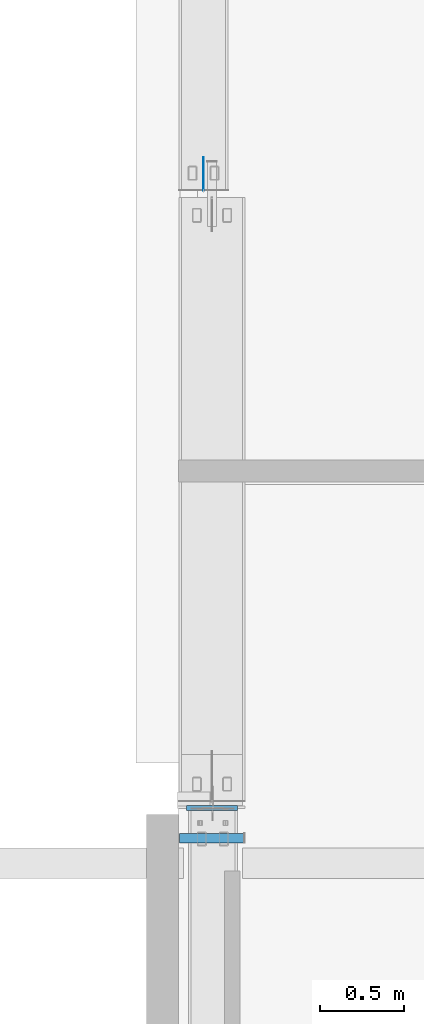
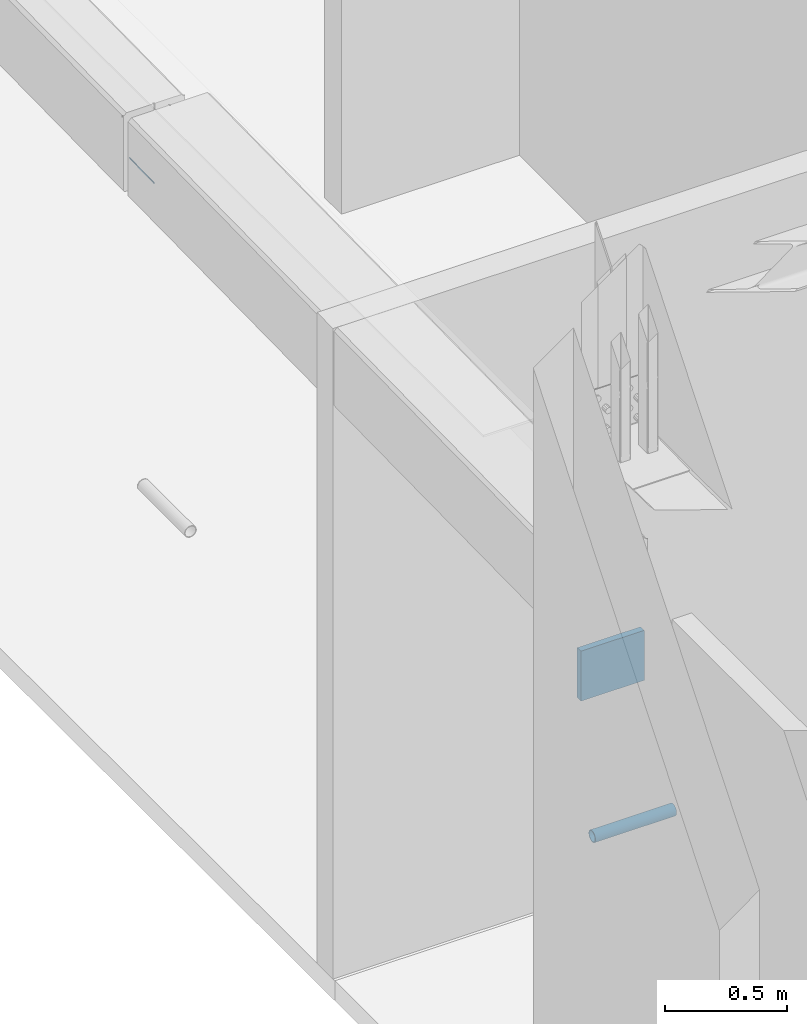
# One storey, part 40 of 186: 3 beams.
"""IFC4X3_ADD2 building model written with IfcOpenShell, lengths in millimetres."""

import ifcopenshell
import ifcopenshell.guid

model = None  # the IFC model being written
_history = None  # IfcOwnerHistory: only IFC2X3 demands one
_inside = {}  # id of a spatial element -> (the spatial element, [elements in it])
_under = {}  # id of a project, library or spatial element -> (it, [spatial elements below it])
_declared = {}  # id of a project -> (the project, [libraries it declares])
_typed = {}  # id of a type object -> (the type object, [elements of that type])
_made_of = {}  # id of a material, layer set ... -> (it, [elements and type objects made of it])


def new_model(schema):
    """Start an empty IFC model of exactly this schema.

    Asked for "IFC4X3", IfcOpenShell would pick the latest addendum, in which some entities
    have other attributes; the version numbers below select the first issue.
    IFC2X3 requires an IfcOwnerHistory on every rooted entity: one is made here for all.
    """
    global model, _history
    if schema == "IFC4X3":
        model = ifcopenshell.file(schema_version=(4, 3, 0, 0))
    else:
        model = ifcopenshell.file(schema=schema)
    _inside.clear()
    _under.clear()
    _declared.clear()
    _typed.clear()
    _made_of.clear()
    _history = None
    if model.schema == "IFC2X3":
        org = make("IfcOrganization", Name="unknown")
        user = make(
            "IfcPersonAndOrganization",
            ThePerson=make("IfcPerson", FamilyName="unknown"),
            TheOrganization=org,
        )
        app = make(
            "IfcApplication",
            ApplicationDeveloper=org,
            Version="unknown",
            ApplicationFullName="unknown",
            ApplicationIdentifier="unknown",
        )
        _history = make(
            "IfcOwnerHistory",
            OwningUser=user,
            OwningApplication=app,
            ChangeAction="ADDED",
            CreationDate=0,
        )
    return model


def make(cls, **values):
    """One entity of the class cls with the attributes given. An attribute that is None is left unset."""
    return model.create_entity(
        cls, **{name: value for name, value in values.items() if value is not None}
    )


def rooted(cls, **values):
    """An entity with a GlobalId (a new one), such as an element, a storey or a relation."""
    return make(cls, GlobalId=ifcopenshell.guid.new(), OwnerHistory=_history, **values)


def si_unit(unit_type, name, prefix=None):
    """IfcSIUnit, for example si_unit("LENGTHUNIT", "METRE", prefix="MILLI")."""
    return make("IfcSIUnit", UnitType=unit_type, Prefix=prefix, Name=name)


def assignment(units):
    """IfcUnitAssignment: the units of a project."""
    return None if units is None else make("IfcUnitAssignment", Units=units)


def point(xyz):
    """IfcCartesianPoint."""
    return None if xyz is None else make("IfcCartesianPoint", Coordinates=xyz)


def direction(xyz):
    """IfcDirection."""
    return None if xyz is None else make("IfcDirection", DirectionRatios=xyz)


def frame(location, z_axis=None, x_axis=None):
    """IfcAxis2Placement3D, a coordinate frame: its origin and axes. An axis left out is left unset."""
    return make(
        "IfcAxis2Placement3D",
        Location=point(location),
        Axis=direction(z_axis),
        RefDirection=direction(x_axis),
    )


def frame_2d(location, x_axis=None):
    """IfcAxis2Placement2D, a coordinate frame in the plane: its origin and x axis."""
    return make(
        "IfcAxis2Placement2D", Location=point(location), RefDirection=direction(x_axis)
    )


def origin_with_axes():
    """The frame at (0, 0, 0) with the z axis (0, 0, 1) and the x axis (1, 0, 0) written out."""
    return frame((0.0, 0.0, 0.0), z_axis=(0.0, 0.0, 1.0), x_axis=(1.0, 0.0, 0.0))


def place(relative_to, where):
    """IfcLocalPlacement: puts the frame where relative to a parent placement (None: the world)."""
    return make(
        "IfcLocalPlacement", PlacementRelTo=relative_to, RelativePlacement=where
    )


def context(
    kind, dimensions, precision=None, world=None, true_north=None, identifier=None
):
    """IfcGeometricRepresentationContext, for example the 3D "Model" context."""
    return make(
        "IfcGeometricRepresentationContext",
        ContextIdentifier=identifier,
        ContextType=kind,
        CoordinateSpaceDimension=dimensions,
        Precision=precision,
        WorldCoordinateSystem=world,
        TrueNorth=true_north,
    )


def subcontext(parent, identifier, kind, view, scale=None):
    """IfcGeometricRepresentationSubContext, for example "Body" below "Model"."""
    return make(
        "IfcGeometricRepresentationSubContext",
        ContextIdentifier=identifier,
        ContextType=kind,
        ParentContext=parent,
        TargetScale=scale,
        TargetView=view,
    )


def project(units=None, contexts=None):
    """IfcProject with its units and contexts."""
    return rooted(
        "IfcProject",
        Name="project",
        RepresentationContexts=contexts,
        UnitsInContext=assignment(units),
    )


def spatial(cls, under=None, at=None, **own):
    """A site, building, storey or space (cls), placed at a placement, below another one or the project."""
    s = rooted(cls, ObjectPlacement=at, **own)
    if under is not None:
        _under.setdefault(under.id(), (under, []))[1].append(s)
    return s


def profile(cls, at=None, kind="AREA", **sizes):
    """A parametric profile (cls). Its sizes go by their IFC names, for example OverallWidth=200.0."""
    return make(cls, ProfileType=kind, Position=at, **sizes)


def rectangle(**sizes):
    """IfcRectangleProfileDef."""
    return profile("IfcRectangleProfileDef", **sizes)


def hollow_circle(**sizes):
    """IfcCircleHollowProfileDef."""
    return profile("IfcCircleHollowProfileDef", **sizes)


def extrude(swept, where, along, depth):
    """IfcExtrudedAreaSolid: the profile swept, set in the frame where, extruded along a direction by depth."""
    return make(
        "IfcExtrudedAreaSolid",
        SweptArea=swept,
        Position=where,
        ExtrudedDirection=direction(along),
        Depth=depth,
    )


def shape(context_of_items, identifier, shape_type, items):
    """IfcShapeRepresentation: the items that make up one representation, for example the "Body"."""
    return make(
        "IfcShapeRepresentation",
        ContextOfItems=context_of_items,
        RepresentationIdentifier=identifier,
        RepresentationType=shape_type,
        Items=items,
    )


def material(Name=None, Category=None):
    """IfcMaterial."""
    return make("IfcMaterial", Name=Name, Category=Category)


def made_of(thing, what):
    """Note that an element or type object is made of a material, layer set ...; save() writes the relation."""
    if what is not None:
        _made_of.setdefault(what.id(), (what, []))[1].append(thing)
    return thing


def element(
    cls,
    number,
    at=None,
    inside=None,
    cuts=None,
    type_object=None,
    material=None,
    context=None,
    identifier="Body",
    shape_type=None,
    held_by="IfcProductDefinitionShape",
    body=None,
    shapes=None,
    **own,
):
    """One element of the class cls, such as IfcWall. Its Tag is "e" and its number.

    at: its placement. inside: the storey or other place that contains it. cuts: it is an
    opening in that element (IfcRelVoidsElement). A single representation is given by context,
    identifier, shape_type and body (its items); several are given by shapes. held_by: the class
    of the entity that holds the representations. save() writes the other relations.
    """
    e = rooted(cls, Tag="e%d" % number, ObjectPlacement=at, **own)
    if body is not None:
        shapes = [shape(context, identifier, shape_type, body)]
    if shapes is not None:
        e.Representation = make(held_by, Representations=shapes)
    if inside is not None:
        _inside.setdefault(inside.id(), (inside, []))[1].append(e)
    if cuts is not None:
        rooted(
            "IfcRelVoidsElement", RelatingBuildingElement=cuts, RelatedOpeningElement=e
        )
    if type_object is not None:
        _typed.setdefault(type_object.id(), (type_object, []))[1].append(e)
    return made_of(e, material)


def aggregate(whole, parts):
    """IfcRelAggregates: a whole, such as a stair, and the parts it consists of."""
    return rooted("IfcRelAggregates", RelatingObject=whole, RelatedObjects=parts)


def save(model, path):
    """Write the relations noted so far, then the file.

    IfcRelAggregates (storeys below a building ...), IfcRelContainedInSpatialStructure (elements
    in a storey), IfcRelDefinesByType, IfcRelAssociatesMaterial and IfcRelDeclares: one each for
    every whole, place, type object, material and project.
    """
    for whole, parts in _under.values():
        aggregate(whole, parts)
    for where, things in _inside.values():
        rooted(
            "IfcRelContainedInSpatialStructure",
            RelatedElements=things,
            RelatingStructure=where,
        )
    for kind, things in _typed.values():
        rooted("IfcRelDefinesByType", RelatedObjects=things, RelatingType=kind)
    for what, things in _made_of.values():
        rooted("IfcRelAssociatesMaterial", RelatedObjects=things, RelatingMaterial=what)
    for by, libraries in _declared.values():
        rooted("IfcRelDeclares", RelatingContext=by, RelatedDefinitions=libraries)
    model.write(path)


model = new_model("IFC4X3_ADD2")

# Units and contexts
model_context = context("Model", 3, precision=1e-05, world=origin_with_axes(), true_north=direction((0.0, 1.0)))
body_context = subcontext(model_context, "Body", "Model", "MODEL_VIEW")
ifc_project = project(units=[si_unit("LENGTHUNIT", "METRE", prefix="MILLI"), si_unit("AREAUNIT", "SQUARE_METRE"), si_unit("VOLUMEUNIT", "CUBIC_METRE"), si_unit("PLANEANGLEUNIT", "RADIAN"), si_unit("TIMEUNIT", "SECOND"), si_unit("MASSUNIT", "GRAM")], contexts=[model_context])

# Site, building, storey
site_placement = place(None, origin_with_axes())
site = spatial("IfcSite", under=ifc_project, at=site_placement, Name="Site", CompositionType="ELEMENT")
building_placement = place(site_placement, origin_with_axes())
building = spatial("IfcBuilding", under=site, at=building_placement, Name="IFC Building Story")
storey_placement = place(building_placement, frame((0.0, 0.0, 4370.0), z_axis=(0.0, 0.0, 1.0), x_axis=(1.0, 0.0, 0.0)))
storey = spatial("IfcBuildingStorey", under=building, at=storey_placement, Name="ETAGE 10 (1)", Elevation=4370.0)

# Beams
ifc_material_1 = material(Name="STEEL/Accessory_invisible 261")
beam_1_placement = place(storey_placement, frame((33350.6886988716, 21739.9272317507, 2883.763470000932), z_axis=(1.0, 0.0, 0.0), x_axis=(0.0, 0.01552555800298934, -0.9998794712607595)))
element("IfcBeam", 1, at=beam_1_placement, inside=storey, material=ifc_material_1, Name="BEK4", ObjectType="8*1", context=body_context, shape_type="SweptSolid", body=[
    extrude(rectangle(XDim=8.00000000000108, YDim=200.024108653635, at=frame_2d((0.0, 5.95523630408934e-12), x_axis=(1.0, 0.0))), origin_with_axes(), (0.0, 0.0, 1.0), 1.0),
])
ifc_material_2 = material(Name="STEEL/Accessory_PVC")
beam_2_placement = place(storey_placement, frame((33209.1879999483, 17805.0, 1990.0), z_axis=(1.0, 0.0, 0.0), x_axis=(0.0, 0.0, -1.0)))
element("IfcBeam", 2, at=beam_2_placement, inside=storey, material=ifc_material_2, Name="PS13", ObjectType="O56*3", context=body_context, shape_type="SweptSolid", body=[
    extrude(hollow_circle(Radius=28.0, WallThickness=3.0, at=frame_2d((0.0, 5.95523630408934e-12), x_axis=(1.0, 0.0))), origin_with_axes(), (0.0, 0.0, 1.0), 384.0),
])
ifc_material_3 = material(Name="STEEL/Accessory_EPS")
beam_3_placement = place(storey_placement, frame((33551.188, 17985.0, 2675.33300000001), z_axis=(-1.0, 0.0, 0.0), x_axis=(0.0, 0.0, -1.0)))
element("IfcBeam", 3, at=beam_3_placement, inside=storey, material=ifc_material_3, Name="POL4", ObjectType="30*300", context=body_context, shape_type="SweptSolid", body=[
    extrude(rectangle(XDim=250.0, YDim=30.0000000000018, at=frame_2d((0.0, 5.95523630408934e-12), x_axis=(1.0, 0.0))), origin_with_axes(), (0.0, 0.0, 1.0), 300.0),
])

save(model, "model.ifc")
